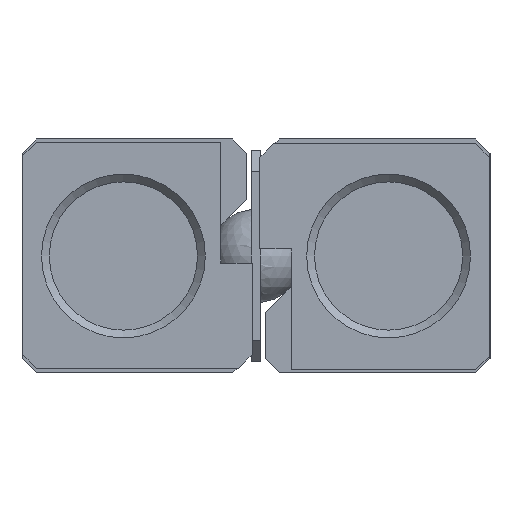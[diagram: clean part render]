
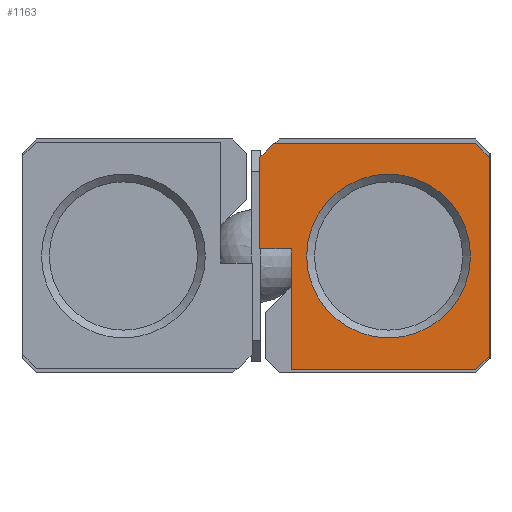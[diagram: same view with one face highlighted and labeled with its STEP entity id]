
A CAD part, left-side view. The second image highlights one B-rep face of the part: STEP entity #1163.
In plain terms, the highlighted planar face has unit normal (-1, 0, 0).
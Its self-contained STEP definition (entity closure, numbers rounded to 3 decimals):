
#62=CIRCLE('',#1267,5.25);
#217=ORIENTED_EDGE('',*,*,#462,.T.);
#218=ORIENTED_EDGE('',*,*,#444,.F.);
#219=ORIENTED_EDGE('',*,*,#461,.F.);
#220=ORIENTED_EDGE('',*,*,#459,.F.);
#221=ORIENTED_EDGE('',*,*,#457,.F.);
#222=ORIENTED_EDGE('',*,*,#455,.F.);
#223=ORIENTED_EDGE('',*,*,#453,.F.);
#224=ORIENTED_EDGE('',*,*,#451,.F.);
#225=ORIENTED_EDGE('',*,*,#449,.F.);
#226=ORIENTED_EDGE('',*,*,#447,.F.);
#444=EDGE_CURVE('',#579,#580,#697,.T.);
#447=EDGE_CURVE('',#580,#581,#700,.T.);
#449=EDGE_CURVE('',#581,#582,#702,.T.);
#451=EDGE_CURVE('',#582,#583,#704,.T.);
#453=EDGE_CURVE('',#583,#584,#706,.T.);
#455=EDGE_CURVE('',#584,#585,#708,.T.);
#457=EDGE_CURVE('',#585,#586,#710,.T.);
#459=EDGE_CURVE('',#586,#587,#712,.T.);
#461=EDGE_CURVE('',#587,#579,#714,.T.);
#462=EDGE_CURVE('',#588,#588,#62,.T.);
#579=VERTEX_POINT('',#1797);
#580=VERTEX_POINT('',#1798);
#581=VERTEX_POINT('',#1803);
#582=VERTEX_POINT('',#1807);
#583=VERTEX_POINT('',#1811);
#584=VERTEX_POINT('',#1815);
#585=VERTEX_POINT('',#1819);
#586=VERTEX_POINT('',#1823);
#587=VERTEX_POINT('',#1827);
#588=VERTEX_POINT('',#1833);
#697=LINE('',#1796,#816);
#700=LINE('',#1802,#819);
#702=LINE('',#1806,#821);
#704=LINE('',#1810,#823);
#706=LINE('',#1814,#825);
#708=LINE('',#1818,#827);
#710=LINE('',#1822,#829);
#712=LINE('',#1826,#831);
#714=LINE('',#1830,#833);
#816=VECTOR('',#1439,1000.);
#819=VECTOR('',#1444,1000.);
#821=VECTOR('',#1448,1000.);
#823=VECTOR('',#1452,1000.);
#825=VECTOR('',#1456,1000.);
#827=VECTOR('',#1460,1000.);
#829=VECTOR('',#1464,1000.);
#831=VECTOR('',#1468,1000.);
#833=VECTOR('',#1472,1000.);
#908=EDGE_LOOP('',(#217));
#909=EDGE_LOOP('',(#218,#219,#220,#221,#222,#223,#224,#225,#226));
#1013=FACE_BOUND('',#908,.T.);
#1014=FACE_BOUND('',#909,.T.);
#1114=PLANE('',#1266);
#1163=ADVANCED_FACE('',(#1013,#1014),#1114,.F.);
#1266=AXIS2_PLACEMENT_3D('',#1831,#1473,#1474);
#1267=AXIS2_PLACEMENT_3D('',#1832,#1475,#1476);
#1439=DIRECTION('',(0.,-1.,0.));
#1444=DIRECTION('',(0.,-0.707,-0.707));
#1448=DIRECTION('',(0.,0.,-1.));
#1452=DIRECTION('',(0.,0.707,-0.707));
#1456=DIRECTION('',(0.,1.,0.));
#1460=DIRECTION('',(0.,0.,1.));
#1464=DIRECTION('',(0.,1.,0.));
#1468=DIRECTION('',(0.,0.,1.));
#1472=DIRECTION('',(0.,-0.707,0.707));
#1473=DIRECTION('',(1.,0.,0.));
#1474=DIRECTION('',(0.,0.,-1.));
#1475=DIRECTION('',(1.,0.,0.));
#1476=DIRECTION('',(0.,0.,-1.));
#1796=CARTESIAN_POINT('',(0.,-1.12,7.2));
#1797=CARTESIAN_POINT('',(0.,-1.12,7.2));
#1798=CARTESIAN_POINT('',(0.,-14.08,7.2));
#1802=CARTESIAN_POINT('',(0.,-14.08,7.2));
#1803=CARTESIAN_POINT('',(0.,-14.95,6.33));
#1806=CARTESIAN_POINT('',(0.,-14.95,6.33));
#1807=CARTESIAN_POINT('',(0.,-14.95,-6.43));
#1810=CARTESIAN_POINT('',(0.,-14.95,-6.43));
#1811=CARTESIAN_POINT('',(0.,-14.08,-7.3));
#1814=CARTESIAN_POINT('',(0.,-14.08,-7.3));
#1815=CARTESIAN_POINT('',(0.,-2.25,-7.3));
#1818=CARTESIAN_POINT('',(0.,-2.25,-7.3));
#1819=CARTESIAN_POINT('',(0.,-2.25,0.45));
#1822=CARTESIAN_POINT('',(0.,-2.25,0.45));
#1823=CARTESIAN_POINT('',(0.,-0.25,0.45));
#1826=CARTESIAN_POINT('',(0.,-0.25,0.45));
#1827=CARTESIAN_POINT('',(0.,-0.25,6.33));
#1830=CARTESIAN_POINT('',(0.,-0.25,6.33));
#1831=CARTESIAN_POINT('',(0.,0.,0.));
#1832=CARTESIAN_POINT('',(0.,-8.5,0.));
#1833=CARTESIAN_POINT('',(0.,-8.5,-5.25));
